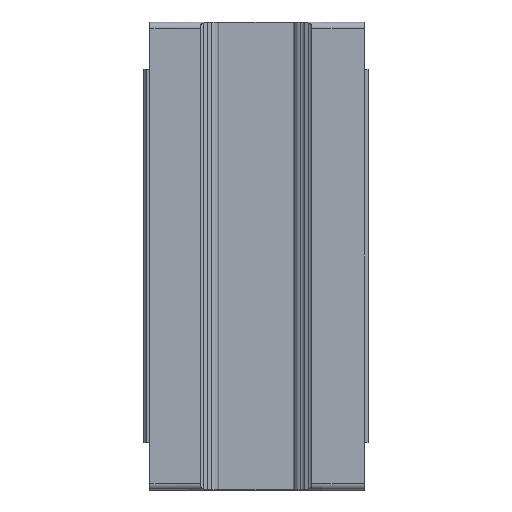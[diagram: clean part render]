
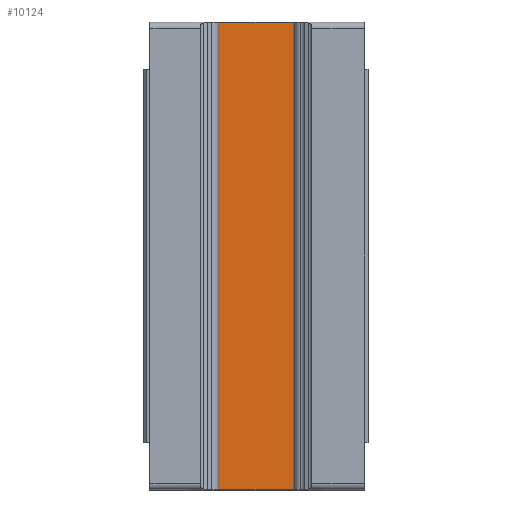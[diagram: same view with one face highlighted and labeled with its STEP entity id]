
A CAD part, front view. The second image highlights one B-rep face of the part: STEP entity #10124.
In plain terms, the highlighted planar face has unit normal (0, -1, 0).
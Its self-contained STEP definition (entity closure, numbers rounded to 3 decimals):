
#18 = CARTESIAN_POINT ( 'NONE',  ( -8.834, 9., -10.1 ) ) ;
#98 = DIRECTION ( 'NONE',  ( 0., 0., 1. ) ) ;
#99 = VECTOR ( 'NONE', #98, 1000. ) ;
#173 = LINE ( 'NONE', #18, #99 ) ;
#6287 = CARTESIAN_POINT ( 'NONE',  ( 8.834, 9., -10.1 ) ) ;
#6288 = AXIS2_PLACEMENT_3D ( 'NONE', #6287, #6371, #6370 ) ;
#6289 = PLANE ( 'NONE',  #6288 ) ;
#6290 = FACE_OUTER_BOUND ( 'NONE', #10126, .T. ) ;
#6366 = DIRECTION ( 'NONE',  ( 0., 0., 1. ) ) ;
#6367 = VECTOR ( 'NONE', #6366, 1000. ) ;
#6368 = CARTESIAN_POINT ( 'NONE',  ( 8.834, 9., -10.1 ) ) ;
#6369 = LINE ( 'NONE', #6368, #6367 ) ;
#6370 = DIRECTION ( 'NONE',  ( 0., 0., 1. ) ) ;
#6371 = DIRECTION ( 'NONE',  ( 0., 1., 0. ) ) ;
#7290 = CARTESIAN_POINT ( 'NONE',  ( -8.834, 9., -10.05 ) ) ;
#8136 = DIRECTION ( 'NONE',  ( -1., 0., 0. ) ) ;
#8137 = VECTOR ( 'NONE', #8136, 1000. ) ;
#8138 = CARTESIAN_POINT ( 'NONE',  ( -9.2, 9., -10.05 ) ) ;
#8139 = LINE ( 'NONE', #8138, #8137 ) ;
#8140 = CARTESIAN_POINT ( 'NONE',  ( 8.834, 9., -10.05 ) ) ;
#9306 = CARTESIAN_POINT ( 'NONE',  ( -8.834, 9., 90.05 ) ) ;
#9505 = CARTESIAN_POINT ( 'NONE',  ( 8.834, 9., 90.05 ) ) ;
#9506 = DIRECTION ( 'NONE',  ( 1., 0., 0. ) ) ;
#9507 = VECTOR ( 'NONE', #9506, 1000. ) ;
#9508 = CARTESIAN_POINT ( 'NONE',  ( -9.2, 9., 90.05 ) ) ;
#9509 = LINE ( 'NONE', #9508, #9507 ) ;
#10124 = ADVANCED_FACE ( 'NONE', ( #6290 ), #6289, .F. ) ;
#10126 = EDGE_LOOP ( 'NONE', ( #10128, #10131, #10132, #10221 ) ) ;
#10128 = ORIENTED_EDGE ( 'NONE', *, *, #10130, .T. ) ;
#10130 = EDGE_CURVE ( 'NONE', #12071, #12683, #6369, .T. ) ;
#10131 = ORIENTED_EDGE ( 'NONE', *, *, #12682, .F. ) ;
#10132 = ORIENTED_EDGE ( 'NONE', *, *, #13806, .F. ) ;
#10221 = ORIENTED_EDGE ( 'NONE', *, *, #12074, .F. ) ;
#11442 = VERTEX_POINT ( 'NONE', #7290 ) ;
#12071 = VERTEX_POINT ( 'NONE', #8140 ) ;
#12074 = EDGE_CURVE ( 'NONE', #12071, #11442, #8139, .T. ) ;
#12680 = VERTEX_POINT ( 'NONE', #9306 ) ;
#12682 = EDGE_CURVE ( 'NONE', #12680, #12683, #9509, .T. ) ;
#12683 = VERTEX_POINT ( 'NONE', #9505 ) ;
#13806 = EDGE_CURVE ( 'NONE', #11442, #12680, #173, .T. ) ;
